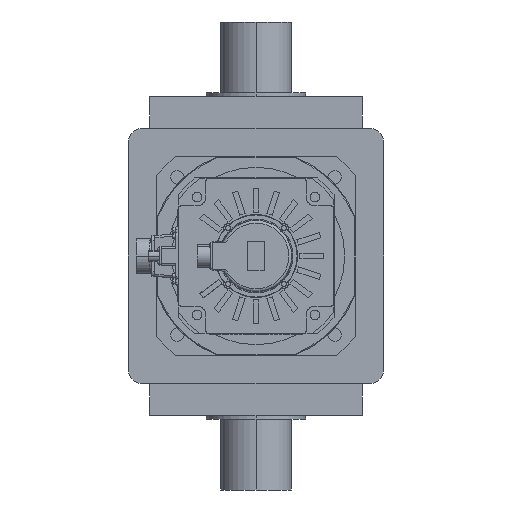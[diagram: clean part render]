
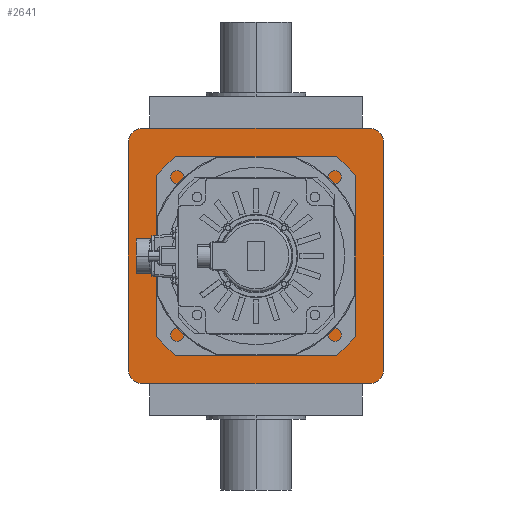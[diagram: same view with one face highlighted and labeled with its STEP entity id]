
A CAD part, left-side view. The second image highlights one B-rep face of the part: STEP entity #2641.
In plain terms, the highlighted planar face has unit normal (-1, 0, 0).
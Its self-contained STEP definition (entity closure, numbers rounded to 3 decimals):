
#79 = VECTOR ( 'NONE', #18366, 1000. ) ;
#424 = VERTEX_POINT ( 'NONE', #15184 ) ;
#533 = VERTEX_POINT ( 'NONE', #7468 ) ;
#643 = ORIENTED_EDGE ( 'NONE', *, *, #26493, .T. ) ;
#674 = CARTESIAN_POINT ( 'NONE',  ( -313., 160., 160. ) ) ;
#919 = CARTESIAN_POINT ( 'NONE',  ( -313., -180., -160. ) ) ;
#955 = DIRECTION ( 'NONE',  ( 0., 0., 1. ) ) ;
#1037 = VERTEX_POINT ( 'NONE', #919 ) ;
#1655 = CARTESIAN_POINT ( 'NONE',  ( -313., 160., 180. ) ) ;
#1731 = LINE ( 'NONE', #24926, #25927 ) ;
#1775 = EDGE_CURVE ( 'NONE', #1037, #533, #20556, .T. ) ;
#1937 = CARTESIAN_POINT ( 'NONE',  ( -313., -160., -160. ) ) ;
#1972 = CARTESIAN_POINT ( 'NONE',  ( -313., -160., 160. ) ) ;
#1993 = DIRECTION ( 'NONE',  ( 0., -1., 0. ) ) ;
#2041 = EDGE_CURVE ( 'NONE', #8920, #12732, #1731, .T. ) ;
#2391 = AXIS2_PLACEMENT_3D ( 'NONE', #23284, #28041, #14591 ) ;
#2641 = ADVANCED_FACE ( 'NONE', ( #26992, #10735 ), #29849, .F. ) ;
#3124 = DIRECTION ( 'NONE',  ( -1., 0., 0. ) ) ;
#3280 = EDGE_LOOP ( 'NONE', ( #4599, #16739 ) ) ;
#3442 = EDGE_CURVE ( 'NONE', #10049, #424, #9585, .T. ) ;
#3799 = AXIS2_PLACEMENT_3D ( 'NONE', #29089, #5900, #8230 ) ;
#4294 = ORIENTED_EDGE ( 'NONE', *, *, #13257, .T. ) ;
#4391 = DIRECTION ( 'NONE',  ( -1., 0., 0. ) ) ;
#4599 = ORIENTED_EDGE ( 'NONE', *, *, #24394, .F. ) ;
#5900 = DIRECTION ( 'NONE',  ( -1., 0., 0. ) ) ;
#6060 = ORIENTED_EDGE ( 'NONE', *, *, #24837, .T. ) ;
#6175 = VECTOR ( 'NONE', #15508, 1000. ) ;
#6804 = CIRCLE ( 'NONE', #27845, 20. ) ;
#7468 = CARTESIAN_POINT ( 'NONE',  ( -313., -180., 160. ) ) ;
#7786 = CARTESIAN_POINT ( 'NONE',  ( -313., 0., 0. ) ) ;
#8144 = CARTESIAN_POINT ( 'NONE',  ( -313., 180., 160. ) ) ;
#8230 = DIRECTION ( 'NONE',  ( 0., 1., 0. ) ) ;
#8444 = VERTEX_POINT ( 'NONE', #27016 ) ;
#8920 = VERTEX_POINT ( 'NONE', #11535 ) ;
#9103 = DIRECTION ( 'NONE',  ( 1., 0., 0. ) ) ;
#9563 = AXIS2_PLACEMENT_3D ( 'NONE', #1972, #4391, #16020 ) ;
#9585 = CIRCLE ( 'NONE', #12895, 50. ) ;
#9816 = ORIENTED_EDGE ( 'NONE', *, *, #14577, .T. ) ;
#10049 = VERTEX_POINT ( 'NONE', #22486 ) ;
#10116 = EDGE_CURVE ( 'NONE', #533, #10420, #15408, .T. ) ;
#10420 = VERTEX_POINT ( 'NONE', #28536 ) ;
#10735 = FACE_OUTER_BOUND ( 'NONE', #29562, .T. ) ;
#10831 = ORIENTED_EDGE ( 'NONE', *, *, #2041, .T. ) ;
#11222 = DIRECTION ( 'NONE',  ( -1., 0., 0. ) ) ;
#11350 = CIRCLE ( 'NONE', #21152, 20. ) ;
#11535 = CARTESIAN_POINT ( 'NONE',  ( -313., 160., -180. ) ) ;
#11711 = AXIS2_PLACEMENT_3D ( 'NONE', #1937, #9103, #22746 ) ;
#12098 = DIRECTION ( 'NONE',  ( 0., -1., 0. ) ) ;
#12732 = VERTEX_POINT ( 'NONE', #27516 ) ;
#12895 = AXIS2_PLACEMENT_3D ( 'NONE', #7786, #3124, #14861 ) ;
#13257 = EDGE_CURVE ( 'NONE', #22561, #18498, #29412, .T. ) ;
#14027 = ORIENTED_EDGE ( 'NONE', *, *, #10116, .T. ) ;
#14577 = EDGE_CURVE ( 'NONE', #8444, #22561, #6804, .T. ) ;
#14591 = DIRECTION ( 'NONE',  ( 0., -1., 0. ) ) ;
#14861 = DIRECTION ( 'NONE',  ( 0., -1., 0. ) ) ;
#15184 = CARTESIAN_POINT ( 'NONE',  ( -313., -50., 0. ) ) ;
#15381 = CARTESIAN_POINT ( 'NONE',  ( -313., 160., -160. ) ) ;
#15408 = CIRCLE ( 'NONE', #9563, 20. ) ;
#15508 = DIRECTION ( 'NONE',  ( 0., 1., 0. ) ) ;
#16020 = DIRECTION ( 'NONE',  ( 0., 1., 0. ) ) ;
#16552 = CARTESIAN_POINT ( 'NONE',  ( -313., 180., -160. ) ) ;
#16739 = ORIENTED_EDGE ( 'NONE', *, *, #3442, .F. ) ;
#18366 = DIRECTION ( 'NONE',  ( 0., 0., -1. ) ) ;
#18498 = VERTEX_POINT ( 'NONE', #16552 ) ;
#18726 = VECTOR ( 'NONE', #955, 1000. ) ;
#20556 = LINE ( 'NONE', #28671, #18726 ) ;
#20986 = CARTESIAN_POINT ( 'NONE',  ( -313., 180., -160. ) ) ;
#21152 = AXIS2_PLACEMENT_3D ( 'NONE', #15381, #11222, #27579 ) ;
#22486 = CARTESIAN_POINT ( 'NONE',  ( -313., 50., 0. ) ) ;
#22561 = VERTEX_POINT ( 'NONE', #8144 ) ;
#22746 = DIRECTION ( 'NONE',  ( 0., 1., 0. ) ) ;
#23284 = CARTESIAN_POINT ( 'NONE',  ( -313., 0., 0. ) ) ;
#23536 = EDGE_CURVE ( 'NONE', #18498, #8920, #11350, .T. ) ;
#24394 = EDGE_CURVE ( 'NONE', #424, #10049, #27916, .T. ) ;
#24511 = CIRCLE ( 'NONE', #3799, 20. ) ;
#24633 = LINE ( 'NONE', #1655, #6175 ) ;
#24837 = EDGE_CURVE ( 'NONE', #10420, #8444, #24633, .T. ) ;
#24926 = CARTESIAN_POINT ( 'NONE',  ( -313., 160., -180. ) ) ;
#25927 = VECTOR ( 'NONE', #1993, 1000. ) ;
#25929 = DIRECTION ( 'NONE',  ( -1., 0., 0. ) ) ;
#26493 = EDGE_CURVE ( 'NONE', #12732, #1037, #24511, .T. ) ;
#26992 = FACE_BOUND ( 'NONE', #3280, .T. ) ;
#27016 = CARTESIAN_POINT ( 'NONE',  ( -313., 160., 180. ) ) ;
#27059 = ORIENTED_EDGE ( 'NONE', *, *, #1775, .T. ) ;
#27516 = CARTESIAN_POINT ( 'NONE',  ( -313., -160., -180. ) ) ;
#27579 = DIRECTION ( 'NONE',  ( 0., -1., 0. ) ) ;
#27845 = AXIS2_PLACEMENT_3D ( 'NONE', #674, #25929, #12098 ) ;
#27916 = CIRCLE ( 'NONE', #2391, 50. ) ;
#28041 = DIRECTION ( 'NONE',  ( -1., 0., 0. ) ) ;
#28536 = CARTESIAN_POINT ( 'NONE',  ( -313., -160., 180. ) ) ;
#28613 = ORIENTED_EDGE ( 'NONE', *, *, #23536, .T. ) ;
#28671 = CARTESIAN_POINT ( 'NONE',  ( -313., -180., -160. ) ) ;
#29089 = CARTESIAN_POINT ( 'NONE',  ( -313., -160., -160. ) ) ;
#29412 = LINE ( 'NONE', #20986, #79 ) ;
#29562 = EDGE_LOOP ( 'NONE', ( #643, #27059, #14027, #6060, #9816, #4294, #28613, #10831 ) ) ;
#29849 = PLANE ( 'NONE',  #11711 ) ;
